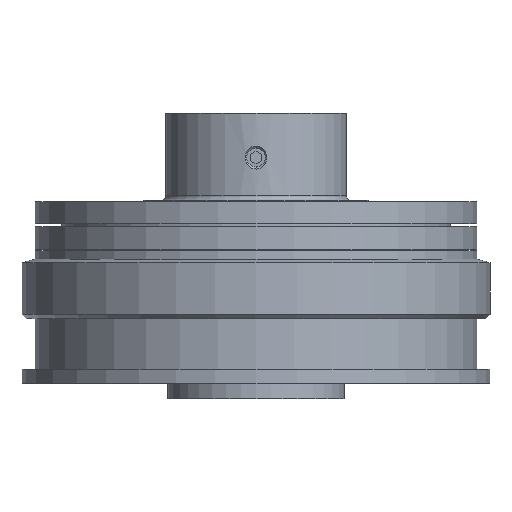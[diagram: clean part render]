
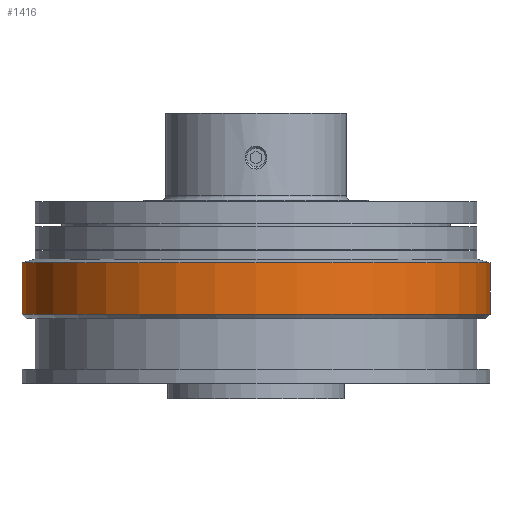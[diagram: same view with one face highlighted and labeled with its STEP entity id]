
A CAD part, front view. The second image highlights one B-rep face of the part: STEP entity #1416.
In plain terms, the highlighted cylindrical face has radius 53 mm (diameter 106 mm), a partial arc.
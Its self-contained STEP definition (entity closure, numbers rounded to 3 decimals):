
#302 = ORIENTED_EDGE ( 'NONE', *, *, #6553, .F. ) ;
#303 = ORIENTED_EDGE ( 'NONE', *, *, #2579, .T. ) ;
#304 = ORIENTED_EDGE ( 'NONE', *, *, #6555, .T. ) ;
#305 = ORIENTED_EDGE ( 'NONE', *, *, #6551, .F. ) ;
#1416 = ADVANCED_FACE ( 'NONE', ( #4016 ), #3989, .T. ) ;
#1589 = AXIS2_PLACEMENT_3D ( 'NONE', #7827, #7816, #10448 ) ;
#2101 = VERTEX_POINT ( 'NONE', #5248 ) ;
#2102 = VERTEX_POINT ( 'NONE', #5252 ) ;
#2258 = VERTEX_POINT ( 'NONE', #5319 ) ;
#2260 = VERTEX_POINT ( 'NONE', #5320 ) ;
#2406 = VECTOR ( 'NONE', #9426, 1000. ) ;
#2408 = LINE ( 'NONE', #9431, #2406 ) ;
#2412 = VECTOR ( 'NONE', #9432, 1000. ) ;
#2441 = LINE ( 'NONE', #9427, #2412 ) ;
#2454 = CIRCLE ( 'NONE', #7954, 53. ) ;
#2579 = EDGE_CURVE ( 'NONE', #2102, #2101, #8866, .T. ) ;
#3989 = CYLINDRICAL_SURFACE ( 'NONE', #1589, 53. ) ;
#4016 = FACE_OUTER_BOUND ( 'NONE', #9860, .T. ) ;
#5248 = CARTESIAN_POINT ( 'NONE',  ( 53., 0., 15.6 ) ) ;
#5252 = CARTESIAN_POINT ( 'NONE',  ( -53., 0., 15.6 ) ) ;
#5319 = CARTESIAN_POINT ( 'NONE',  ( -53., 0., 27.296 ) ) ;
#5320 = CARTESIAN_POINT ( 'NONE',  ( 53., 0., 27.296 ) ) ;
#5393 = CARTESIAN_POINT ( 'NONE',  ( 0., 0., 15.6 ) ) ;
#5394 = DIRECTION ( 'NONE',  ( 0., 0., 1. ) ) ;
#5395 = DIRECTION ( 'NONE',  ( -1., 0., 0. ) ) ;
#6551 = EDGE_CURVE ( 'NONE', #2258, #2260, #2454, .T. ) ;
#6553 = EDGE_CURVE ( 'NONE', #2102, #2258, #2441, .T. ) ;
#6555 = EDGE_CURVE ( 'NONE', #2101, #2260, #2408, .T. ) ;
#7816 = DIRECTION ( 'NONE',  ( 0., 0., 1. ) ) ;
#7827 = CARTESIAN_POINT ( 'NONE',  ( 0., 0., 3. ) ) ;
#7954 = AXIS2_PLACEMENT_3D ( 'NONE', #9428, #9429, #9430 ) ;
#8168 = AXIS2_PLACEMENT_3D ( 'NONE', #5393, #5394, #5395 ) ;
#8866 = CIRCLE ( 'NONE', #8168, 53. ) ;
#9426 = DIRECTION ( 'NONE',  ( 0., 0., 1. ) ) ;
#9427 = CARTESIAN_POINT ( 'NONE',  ( -53., 0., 3. ) ) ;
#9428 = CARTESIAN_POINT ( 'NONE',  ( 0., 0., 27.296 ) ) ;
#9429 = DIRECTION ( 'NONE',  ( 0., 0., 1. ) ) ;
#9430 = DIRECTION ( 'NONE',  ( -1., 0., 0. ) ) ;
#9431 = CARTESIAN_POINT ( 'NONE',  ( 53., 0., 3. ) ) ;
#9432 = DIRECTION ( 'NONE',  ( 0., 0., 1. ) ) ;
#9860 = EDGE_LOOP ( 'NONE', ( #302, #303, #304, #305 ) ) ;
#10448 = DIRECTION ( 'NONE',  ( 1., 0., 0. ) ) ;
